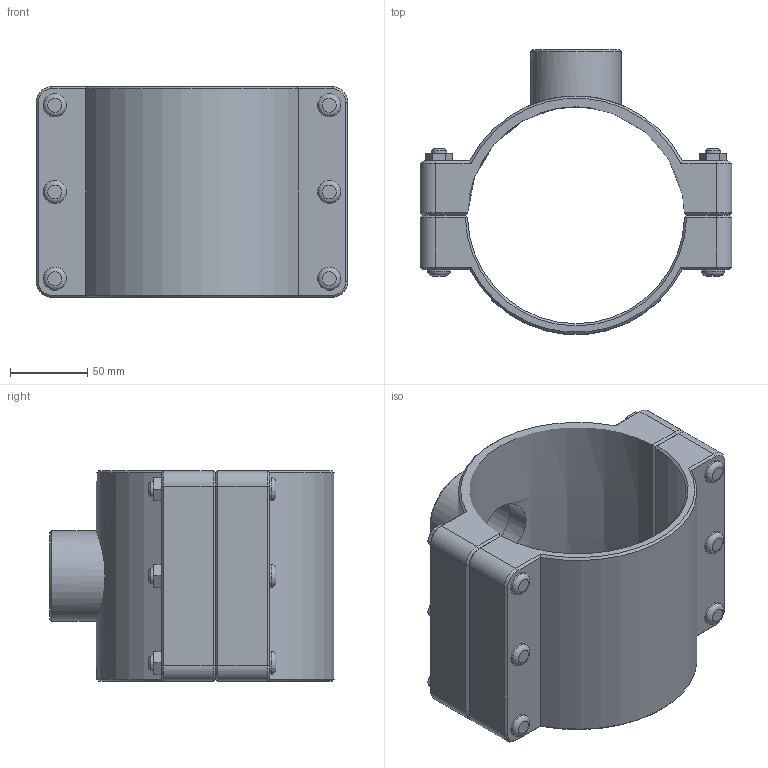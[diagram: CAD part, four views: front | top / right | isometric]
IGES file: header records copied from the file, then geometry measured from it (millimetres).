
Global section: file name: 160760140015_160860140015.ipt; native system: Autodesk Inventor 2015; preprocessor: unknown; author: KIM; date: 20170618.093600; units: millimetre
Bounding box: 201 x 183.72 x 136 mm (x, y, z)
Volume: 968176.1 mm3; surface area: 177335 mm2
Topology: 1 solids, 1 shells, 169 faces, 394 edges, 249 vertices
Faces by surface type: plane 100, cylinder 29, cone 27, revolution 13
Full cylindrical faces by diameter (mm): 10 x6, 15 x12, 58.298 x1
